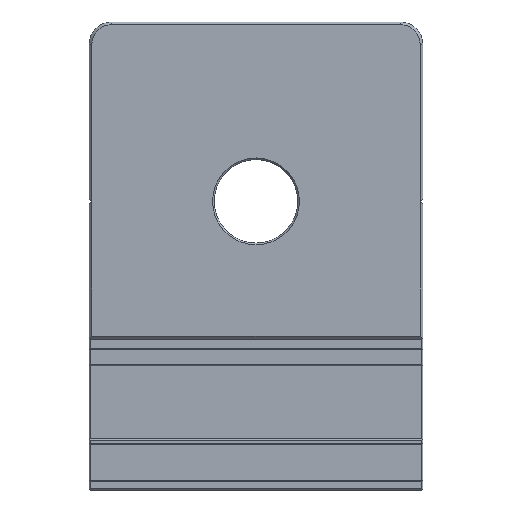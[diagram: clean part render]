
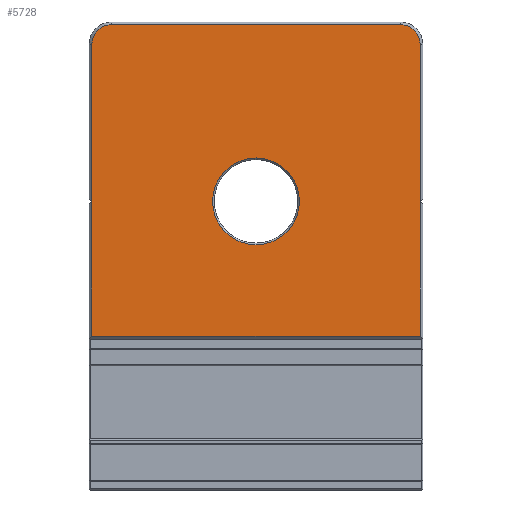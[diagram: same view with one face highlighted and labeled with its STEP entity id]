
A CAD part, front view. The second image highlights one B-rep face of the part: STEP entity #5728.
In plain terms, the highlighted planar face has unit normal (0, -1, 0).
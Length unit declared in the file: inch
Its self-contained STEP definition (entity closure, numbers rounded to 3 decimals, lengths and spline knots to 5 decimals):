
#79 = ORIENTED_EDGE ( 'NONE', *, *, #6602, .T. ) ;
#192 = EDGE_CURVE ( 'NONE', #761, #3564, #245, .T. ) ;
#214 = EDGE_CURVE ( 'NONE', #3564, #746, #2291, .T. ) ;
#245 = LINE ( 'NONE', #4878, #4914 ) ;
#280 = EDGE_CURVE ( 'NONE', #6302, #4395, #4480, .T. ) ;
#381 = ORIENTED_EDGE ( 'NONE', *, *, #1607, .T. ) ;
#446 = VECTOR ( 'NONE', #4327, 39.37008 ) ;
#604 = EDGE_CURVE ( 'NONE', #3871, #5959, #784, .T. ) ;
#746 = VERTEX_POINT ( 'NONE', #3030 ) ;
#758 = CARTESIAN_POINT ( 'NONE',  ( 3., -0.0048, 2.48621 ) ) ;
#761 = VERTEX_POINT ( 'NONE', #1871 ) ;
#784 = LINE ( 'NONE', #5452, #446 ) ;
#864 = VERTEX_POINT ( 'NONE', #5391 ) ;
#886 = ORIENTED_EDGE ( 'NONE', *, *, #214, .T. ) ;
#945 = LINE ( 'NONE', #6638, #4742 ) ;
#972 = DIRECTION ( 'NONE',  ( 0., 1., 0. ) ) ;
#1400 = AXIS2_PLACEMENT_3D ( 'NONE', #5961, #4422, #2962 ) ;
#1427 = ORIENTED_EDGE ( 'NONE', *, *, #5273, .T. ) ;
#1439 = DIRECTION ( 'NONE',  ( 0., -1., 0. ) ) ;
#1566 = EDGE_CURVE ( 'NONE', #5959, #761, #2775, .T. ) ;
#1607 = EDGE_CURVE ( 'NONE', #864, #6752, #5977, .T. ) ;
#1624 = CARTESIAN_POINT ( 'NONE',  ( 3., -0.0048, 2.48621 ) ) ;
#1723 = EDGE_CURVE ( 'NONE', #6752, #4284, #4453, .T. ) ;
#1778 = DIRECTION ( 'NONE',  ( 0., 0., 1. ) ) ;
#1836 = ORIENTED_EDGE ( 'NONE', *, *, #192, .T. ) ;
#1871 = CARTESIAN_POINT ( 'NONE',  ( 5.95, -0.0048, 0.06 ) ) ;
#1894 = CIRCLE ( 'NONE', #2221, 0.78 ) ;
#1948 = CARTESIAN_POINT ( 'NONE',  ( 0.05, -0.0048, 2.48621 ) ) ;
#1973 = EDGE_LOOP ( 'NONE', ( #79, #6364 ) ) ;
#2089 = EDGE_CURVE ( 'NONE', #746, #864, #4666, .T. ) ;
#2188 = AXIS2_PLACEMENT_3D ( 'NONE', #758, #3899, #5943 ) ;
#2221 = AXIS2_PLACEMENT_3D ( 'NONE', #1624, #972, #2583 ) ;
#2291 = LINE ( 'NONE', #5460, #5785 ) ;
#2415 = CARTESIAN_POINT ( 'NONE',  ( 0.05, -0.0048, 5.31 ) ) ;
#2425 = DIRECTION ( 'NONE',  ( 0., 0., -1. ) ) ;
#2502 = ORIENTED_EDGE ( 'NONE', *, *, #2089, .T. ) ;
#2583 = DIRECTION ( 'NONE',  ( 0., 0., -1. ) ) ;
#2775 = LINE ( 'NONE', #4847, #4780 ) ;
#2783 = AXIS2_PLACEMENT_3D ( 'NONE', #6469, #1439, #3884 ) ;
#2796 = PLANE ( 'NONE',  #2783 ) ;
#2962 = DIRECTION ( 'NONE',  ( 0., 0., -1. ) ) ;
#2980 = EDGE_LOOP ( 'NONE', ( #1427, #3480, #6442, #1836, #886, #2502, #381, #6448 ) ) ;
#3030 = CARTESIAN_POINT ( 'NONE',  ( 5.95, -0.0048, 5.31 ) ) ;
#3041 = AXIS2_PLACEMENT_3D ( 'NONE', #4504, #4732, #2425 ) ;
#3350 = DIRECTION ( 'NONE',  ( 1., 0., 0. ) ) ;
#3385 = CARTESIAN_POINT ( 'NONE',  ( 6., -0.0048, 5.66 ) ) ;
#3480 = ORIENTED_EDGE ( 'NONE', *, *, #604, .T. ) ;
#3564 = VERTEX_POINT ( 'NONE', #4960 ) ;
#3584 = VECTOR ( 'NONE', #5525, 39.37008 ) ;
#3861 = DIRECTION ( 'NONE',  ( 0., 0., 1. ) ) ;
#3871 = VERTEX_POINT ( 'NONE', #1948 ) ;
#3884 = DIRECTION ( 'NONE',  ( 0., 0., -1. ) ) ;
#3899 = DIRECTION ( 'NONE',  ( 0., 1., 0. ) ) ;
#4170 = CARTESIAN_POINT ( 'NONE',  ( 3., -0.0048, 1.70621 ) ) ;
#4284 = VERTEX_POINT ( 'NONE', #2415 ) ;
#4327 = DIRECTION ( 'NONE',  ( 0., 0., -1. ) ) ;
#4395 = VERTEX_POINT ( 'NONE', #4170 ) ;
#4422 = DIRECTION ( 'NONE',  ( 0., -1., 0. ) ) ;
#4453 = CIRCLE ( 'NONE', #3041, 0.35 ) ;
#4480 = CIRCLE ( 'NONE', #2188, 0.78 ) ;
#4504 = CARTESIAN_POINT ( 'NONE',  ( 0.4, -0.0048, 5.31 ) ) ;
#4666 = CIRCLE ( 'NONE', #1400, 0.35 ) ;
#4732 = DIRECTION ( 'NONE',  ( 0., -1., 0. ) ) ;
#4742 = VECTOR ( 'NONE', #5688, 39.37008 ) ;
#4780 = VECTOR ( 'NONE', #3350, 39.37008 ) ;
#4828 = CARTESIAN_POINT ( 'NONE',  ( 0.4, -0.0048, 5.66 ) ) ;
#4847 = CARTESIAN_POINT ( 'NONE',  ( 5.95, -0.0048, 0.06 ) ) ;
#4878 = CARTESIAN_POINT ( 'NONE',  ( 5.95, -0.0048, 0. ) ) ;
#4914 = VECTOR ( 'NONE', #3861, 39.37008 ) ;
#4960 = CARTESIAN_POINT ( 'NONE',  ( 5.95, -0.0048, 2.48621 ) ) ;
#5213 = CARTESIAN_POINT ( 'NONE',  ( 3., -0.0048, 3.26621 ) ) ;
#5261 = CARTESIAN_POINT ( 'NONE',  ( 0.05, -0.0048, 0.06 ) ) ;
#5273 = EDGE_CURVE ( 'NONE', #4284, #3871, #945, .T. ) ;
#5391 = CARTESIAN_POINT ( 'NONE',  ( 5.6, -0.0048, 5.66 ) ) ;
#5452 = CARTESIAN_POINT ( 'NONE',  ( 0.05, -0.0048, 5.31 ) ) ;
#5460 = CARTESIAN_POINT ( 'NONE',  ( 5.95, -0.0048, 0. ) ) ;
#5525 = DIRECTION ( 'NONE',  ( -1., 0., 0. ) ) ;
#5600 = FACE_OUTER_BOUND ( 'NONE', #2980, .T. ) ;
#5688 = DIRECTION ( 'NONE',  ( 0., 0., -1. ) ) ;
#5728 = ADVANCED_FACE ( 'NONE', ( #6621, #5600 ), #2796, .T. ) ;
#5785 = VECTOR ( 'NONE', #1778, 39.37008 ) ;
#5943 = DIRECTION ( 'NONE',  ( 0., 0., -1. ) ) ;
#5959 = VERTEX_POINT ( 'NONE', #5261 ) ;
#5961 = CARTESIAN_POINT ( 'NONE',  ( 5.6, -0.0048, 5.31 ) ) ;
#5977 = LINE ( 'NONE', #3385, #3584 ) ;
#6302 = VERTEX_POINT ( 'NONE', #5213 ) ;
#6364 = ORIENTED_EDGE ( 'NONE', *, *, #280, .T. ) ;
#6442 = ORIENTED_EDGE ( 'NONE', *, *, #1566, .T. ) ;
#6448 = ORIENTED_EDGE ( 'NONE', *, *, #1723, .T. ) ;
#6469 = CARTESIAN_POINT ( 'NONE',  ( 6., -0.0048, 0. ) ) ;
#6602 = EDGE_CURVE ( 'NONE', #4395, #6302, #1894, .T. ) ;
#6621 = FACE_BOUND ( 'NONE', #1973, .T. ) ;
#6638 = CARTESIAN_POINT ( 'NONE',  ( 0.05, -0.0048, 5.31 ) ) ;
#6752 = VERTEX_POINT ( 'NONE', #4828 ) ;
